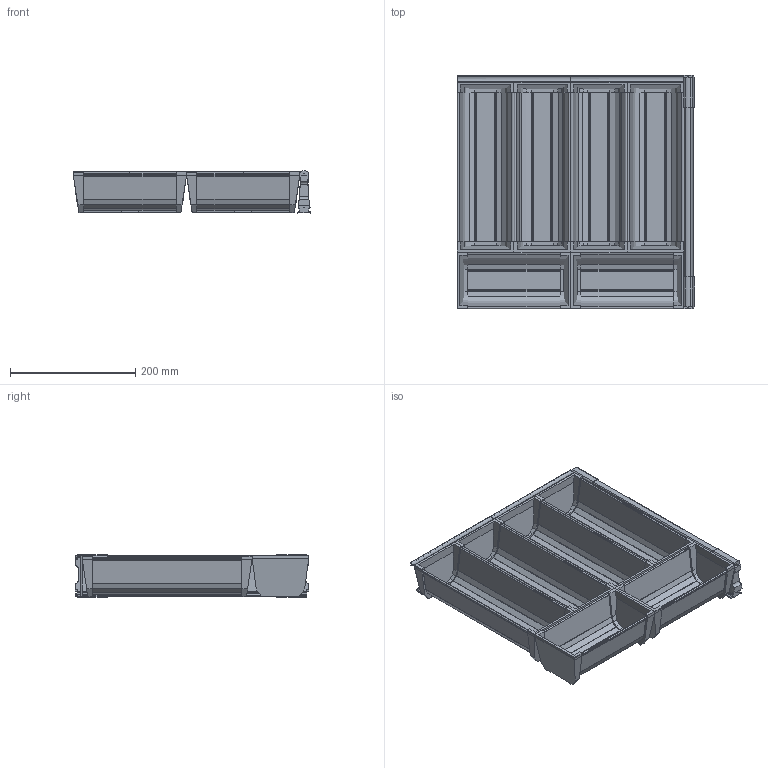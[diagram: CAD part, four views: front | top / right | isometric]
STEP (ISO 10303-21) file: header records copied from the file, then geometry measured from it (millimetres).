
FILE_DESCRIPTION (( 'STEP AP214' ), '1' );
FILE_NAME ('Magic-Sorto_B4_NL-400.STEP', '2010-08-17T11:33:58', ( 'grass' ), ( '' ), 'SwSTEP 2.0', 'SolidWorks 2010', '' );
FILE_SCHEMA (( 'AUTOMOTIVE_DESIGN' ));
Length unit declared in the file: millimetre
Products named in the file (1): Magic-Sorto_B4_NL-400
Bounding box: 379.4 x 373 x 67.5 mm (x, y, z)
Volume: 771891.8 mm3; surface area: 771007.1 mm2
Topology: 9 solids, 9 shells, 841 faces, 2433 edges, 1622 vertices
Faces by surface type: plane 545, cylinder 296
Entity records: 37284 total; most frequent: CARTESIAN_POINT 5619, ORIENTED_EDGE 4866, DIRECTION 4489, EDGE_CURVE 2433, LINE 1801, VECTOR 1801, VERTEX_POINT 1622, AXIS2_PLACEMENT_3D 1344
